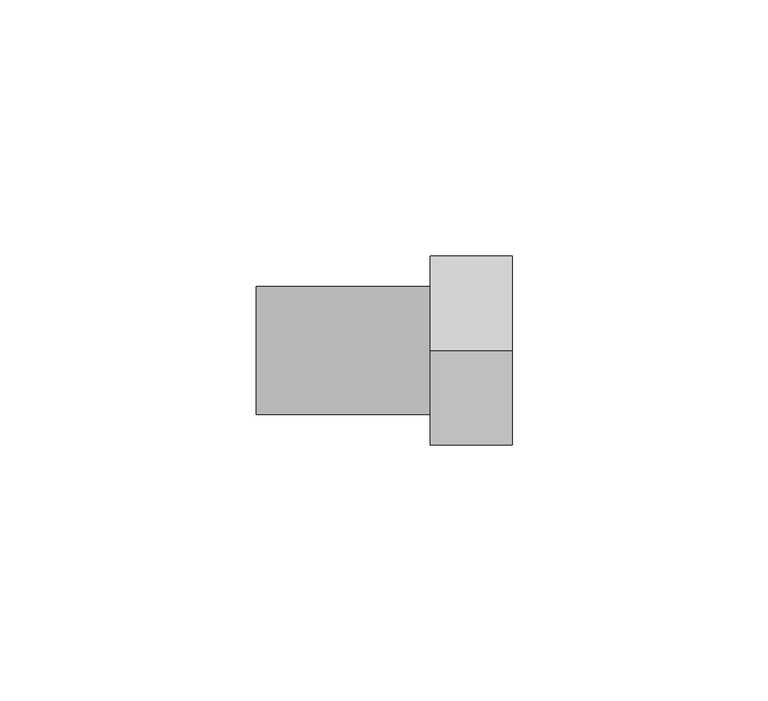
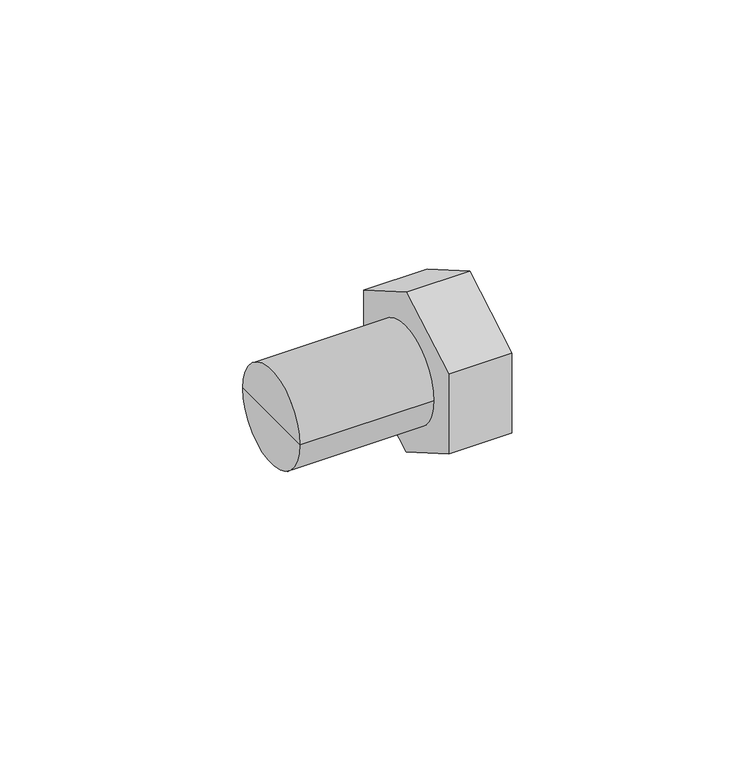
"""IFC4 building model written with IfcOpenShell, lengths in millimetres: pipe fitting geometry, KAN-therm PP półśrubunek 1 : KAN-therm PP półśrubunek 1."""

from ifc_helpers import new_model, si_unit, frame, origin, place, context, project, spatial, polyline, circle_curve, outline, extrude, source, transform, mapped, element, save
from ifc_brep_helpers import plane_surface, cylinder_surface, advanced_brep


def pipe_fitting_83ee3611(model_context):
    return source(origin(), model_context, "Body", "SolidModel", [
        extrude(outline(polyline([(0.0, -21.36196), (-18.5, -10.68098), (-18.5, 10.68098), (0.0, 21.36196), (18.5, 10.68098), (18.5, -10.68098), (0.0, -21.36196)])), frame((18.0, 0.0, 0.0), z_axis=(1.0, 0.0, 0.0), x_axis=(0.0, 1.0, 0.0)), (0.0, 0.0, 1.0), 16.0),
        advanced_brep(
        [(-16.0, 0.0, 0.0), (-16.0, 12.5, 0.0), (-16.0, -12.5, 0.0), (18.0, -12.5, 0.0), (18.0, 12.5, 0.0), (18.0, 0.0, 0.0)],
        [
            (0, 1),
            (1, 2, circle_curve(frame((-16.0, 0.0, 0.0), z_axis=(-1.0, 0.0, 0.0), x_axis=(0.0, 1.0, 0.0)), 12.5)),
            (2, 0),
            (2, 1, circle_curve(frame((-16.0, 0.0, 0.0), z_axis=(-1.0, 0.0, 0.0), x_axis=(0.0, 1.0, 0.0)), 12.5)),
            (3, 4, circle_curve(frame((18.0, 0.0, 0.0), z_axis=(1.0, 0.0, 0.0), x_axis=(0.0, 1.0, 0.0)), 12.5)),
            (4, 5),
            (5, 3),
            (4, 3, circle_curve(frame((18.0, 0.0, 0.0), z_axis=(1.0, 0.0, 0.0), x_axis=(0.0, 1.0, 0.0)), 12.5)),
            (1, 4),
            (3, 2),
        ],
        [
            plane_surface(frame((-16.0, 0.0, 0.0), z_axis=(-1.0, 0.0, 0.0), x_axis=(0.0, 1.0, 0.0))),
            plane_surface(frame((18.0, 0.0, 0.0), z_axis=(1.0, 0.0, 0.0), x_axis=(0.0, 1.0, 0.0))),
            cylinder_surface(frame((1983.3, 0.0, 0.0), z_axis=(-1.0, 0.0, 0.0), x_axis=(0.0, 1.0, 0.0)), 12.5),
        ],
        [
            (0, [[1, 2, 3]]),
            (0, [[-3, 4, -1]]),
            (1, [[5, 6, 7]]),
            (1, [[8, -7, -6]]),
            (2, [[-2, 9, -5, 10]]),
            (2, [[-4, -10, -8, -9]]),
        ],
    ),
    ])


if __name__ == "__main__":
    model = new_model("IFC4")
    model_context = context("Model", 3, world=origin())
    ifc_project = project(units=[si_unit("LENGTHUNIT", "METRE", prefix="MILLI")], contexts=[model_context])
    site = spatial("IfcSite", under=ifc_project)
    building = spatial("IfcBuilding", under=site)
    placement = place(None, origin())
    pipe_fitting_shape = pipe_fitting_83ee3611(model_context)
    element("IfcPipeFitting", 1, ObjectType="KAN-therm PP półśrubunek 1 : KAN-therm PP półśrubunek 1", at=placement, inside=building, context=model_context, shape_type="MappedRepresentation", body=[
        mapped(pipe_fitting_shape, transform((0.0, 0.0, 0.0), x_axis=(1.0, 0.0, 0.0), y_axis=(0.0, 1.0, 0.0), z_axis=(0.0, 0.0, 1.0))),
    ])
    save(model, "model.ifc")
